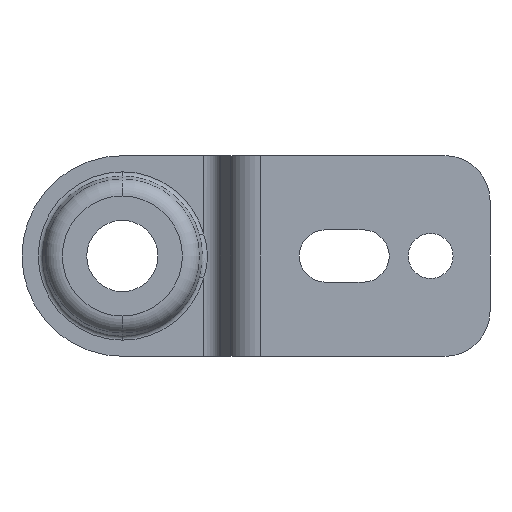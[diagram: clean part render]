
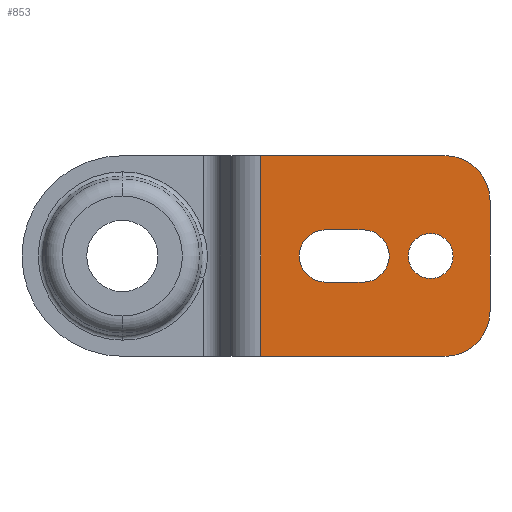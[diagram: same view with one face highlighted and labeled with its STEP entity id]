
A CAD part, front view. The second image highlights one B-rep face of the part: STEP entity #853.
In plain terms, the highlighted planar face has unit normal (0, -1, 0).
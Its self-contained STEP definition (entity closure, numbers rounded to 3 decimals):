
#6 = CARTESIAN_POINT ( 'NONE',  ( 26., -8.3, 11.15 ) ) ;
#17 = DIRECTION ( 'NONE',  ( 0., 1., 0. ) ) ;
#23 = AXIS2_PLACEMENT_3D ( 'NONE', #903, #891, #259 ) ;
#29 = EDGE_CURVE ( 'NONE', #1014, #385, #527, .T. ) ;
#31 = VECTOR ( 'NONE', #1172, 1000. ) ;
#36 = DIRECTION ( 'NONE',  ( 0., 0., -1. ) ) ;
#54 = CARTESIAN_POINT ( 'NONE',  ( 26., -8.3, -6.15 ) ) ;
#75 = DIRECTION ( 'NONE',  ( 0., 0., 1. ) ) ;
#76 = DIRECTION ( 'NONE',  ( 0., 0., 1. ) ) ;
#84 = CARTESIAN_POINT ( 'NONE',  ( 7.7, -8.3, 2.9 ) ) ;
#90 = ORIENTED_EDGE ( 'NONE', *, *, #902, .T. ) ;
#98 = VECTOR ( 'NONE', #506, 1000. ) ;
#99 = ORIENTED_EDGE ( 'NONE', *, *, #918, .T. ) ;
#108 = VECTOR ( 'NONE', #114, 1000. ) ;
#112 = EDGE_CURVE ( 'NONE', #655, #1043, #439, .T. ) ;
#114 = DIRECTION ( 'NONE',  ( 0., 0., -1. ) ) ;
#116 = CARTESIAN_POINT ( 'NONE',  ( 0.5, -8.3, 2.9 ) ) ;
#117 = CARTESIAN_POINT ( 'NONE',  ( 0.5, -8.3, -11.15 ) ) ;
#126 = DIRECTION ( 'NONE',  ( 0., 0., 1. ) ) ;
#134 = FACE_OUTER_BOUND ( 'NONE', #1175, .T. ) ;
#165 = EDGE_LOOP ( 'NONE', ( #621, #545, #1130, #223, #1202 ) ) ;
#176 = EDGE_CURVE ( 'NONE', #1219, #894, #791, .T. ) ;
#182 = VERTEX_POINT ( 'NONE', #54 ) ;
#223 = ORIENTED_EDGE ( 'NONE', *, *, #29, .T. ) ;
#225 = VECTOR ( 'NONE', #332, 1000. ) ;
#226 = FACE_BOUND ( 'NONE', #519, .T. ) ;
#228 = VERTEX_POINT ( 'NONE', #1307 ) ;
#259 = DIRECTION ( 'NONE',  ( 0., 0., 1. ) ) ;
#282 = VECTOR ( 'NONE', #36, 1000. ) ;
#307 = VERTEX_POINT ( 'NONE', #732 ) ;
#332 = DIRECTION ( 'NONE',  ( 1., 0., 0. ) ) ;
#352 = AXIS2_PLACEMENT_3D ( 'NONE', #388, #491, #1101 ) ;
#372 = DIRECTION ( 'NONE',  ( 0., 1., 0. ) ) ;
#385 = VERTEX_POINT ( 'NONE', #724 ) ;
#388 = CARTESIAN_POINT ( 'NONE',  ( 11.9, -8.3, 0. ) ) ;
#393 = EDGE_CURVE ( 'NONE', #670, #182, #1031, .T. ) ;
#411 = DIRECTION ( 'NONE',  ( 0., -1., 0. ) ) ;
#418 = CARTESIAN_POINT ( 'NONE',  ( 21.9, -8.3, 0. ) ) ;
#435 = CARTESIAN_POINT ( 'NONE',  ( 16.9, -8.3, 0. ) ) ;
#439 = LINE ( 'NONE', #960, #31 ) ;
#460 = CIRCLE ( 'NONE', #569, 2.9 ) ;
#491 = DIRECTION ( 'NONE',  ( 0., 1., 0. ) ) ;
#495 = DIRECTION ( 'NONE',  ( 0., 0., 1. ) ) ;
#506 = DIRECTION ( 'NONE',  ( 1., 0., 0. ) ) ;
#519 = EDGE_LOOP ( 'NONE', ( #1280, #859 ) ) ;
#522 = EDGE_CURVE ( 'NONE', #1286, #1245, #965, .T. ) ;
#527 = LINE ( 'NONE', #116, #98 ) ;
#529 = ORIENTED_EDGE ( 'NONE', *, *, #393, .F. ) ;
#538 = AXIS2_PLACEMENT_3D ( 'NONE', #679, #909, #76 ) ;
#545 = ORIENTED_EDGE ( 'NONE', *, *, #992, .T. ) ;
#558 = CARTESIAN_POINT ( 'NONE',  ( 0.5, -8.3, 11.15 ) ) ;
#567 = ORIENTED_EDGE ( 'NONE', *, *, #522, .F. ) ;
#569 = AXIS2_PLACEMENT_3D ( 'NONE', #1298, #372, #1093 ) ;
#580 = CARTESIAN_POINT ( 'NONE',  ( 26., -8.3, 6.15 ) ) ;
#583 = EDGE_CURVE ( 'NONE', #228, #182, #893, .T. ) ;
#608 = CARTESIAN_POINT ( 'NONE',  ( 0.5, -8.3, 11.15 ) ) ;
#621 = ORIENTED_EDGE ( 'NONE', *, *, #112, .T. ) ;
#649 = DIRECTION ( 'NONE',  ( 0., 0., 1. ) ) ;
#655 = VERTEX_POINT ( 'NONE', #787 ) ;
#662 = CARTESIAN_POINT ( 'NONE',  ( 0.5, -8.3, 11.15 ) ) ;
#670 = VERTEX_POINT ( 'NONE', #580 ) ;
#676 = CIRCLE ( 'NONE', #702, 2.5 ) ;
#679 = CARTESIAN_POINT ( 'NONE',  ( 19.4, -8.3, 0. ) ) ;
#693 = ORIENTED_EDGE ( 'NONE', *, *, #825, .T. ) ;
#702 = AXIS2_PLACEMENT_3D ( 'NONE', #1155, #964, #126 ) ;
#724 = CARTESIAN_POINT ( 'NONE',  ( 11.9, -8.3, 2.9 ) ) ;
#732 = CARTESIAN_POINT ( 'NONE',  ( 4.8, -8.3, 0. ) ) ;
#749 = CARTESIAN_POINT ( 'NONE',  ( 0.5, -8.3, 11.15 ) ) ;
#775 = CARTESIAN_POINT ( 'NONE',  ( 7.7, -8.3, -2.9 ) ) ;
#782 = AXIS2_PLACEMENT_3D ( 'NONE', #1329, #411, #495 ) ;
#783 = ORIENTED_EDGE ( 'NONE', *, *, #583, .T. ) ;
#787 = CARTESIAN_POINT ( 'NONE',  ( 11.9, -8.3, -2.9 ) ) ;
#791 = CIRCLE ( 'NONE', #538, 2.5 ) ;
#809 = AXIS2_PLACEMENT_3D ( 'NONE', #1226, #1115, #75 ) ;
#825 = EDGE_CURVE ( 'NONE', #670, #1245, #997, .T. ) ;
#853 = ADVANCED_FACE ( 'NONE', ( #226, #865, #134 ), #953, .F. ) ;
#859 = ORIENTED_EDGE ( 'NONE', *, *, #176, .T. ) ;
#865 = FACE_BOUND ( 'NONE', #165, .T. ) ;
#891 = DIRECTION ( 'NONE',  ( 0., -1., 0. ) ) ;
#893 = CIRCLE ( 'NONE', #23, 5. ) ;
#894 = VERTEX_POINT ( 'NONE', #435 ) ;
#902 = EDGE_CURVE ( 'NONE', #1165, #228, #1268, .T. ) ;
#903 = CARTESIAN_POINT ( 'NONE',  ( 21., -8.3, -6.15 ) ) ;
#909 = DIRECTION ( 'NONE',  ( 0., 1., 0. ) ) ;
#912 = AXIS2_PLACEMENT_3D ( 'NONE', #558, #17, #649 ) ;
#918 = EDGE_CURVE ( 'NONE', #1286, #1165, #1254, .T. ) ;
#929 = EDGE_CURVE ( 'NONE', #894, #1219, #676, .T. ) ;
#953 = PLANE ( 'NONE',  #912 ) ;
#960 = CARTESIAN_POINT ( 'NONE',  ( 0.5, -8.3, -2.9 ) ) ;
#964 = DIRECTION ( 'NONE',  ( 0., 1., 0. ) ) ;
#965 = LINE ( 'NONE', #662, #1332 ) ;
#992 = EDGE_CURVE ( 'NONE', #1043, #307, #460, .T. ) ;
#997 = CIRCLE ( 'NONE', #782, 5. ) ;
#1012 = CARTESIAN_POINT ( 'NONE',  ( 21., -8.3, 11.15 ) ) ;
#1014 = VERTEX_POINT ( 'NONE', #84 ) ;
#1031 = LINE ( 'NONE', #6, #108 ) ;
#1043 = VERTEX_POINT ( 'NONE', #775 ) ;
#1049 = CIRCLE ( 'NONE', #352, 2.9 ) ;
#1059 = CARTESIAN_POINT ( 'NONE',  ( 0.5, -8.3, -11.15 ) ) ;
#1093 = DIRECTION ( 'NONE',  ( 0., 0., 1. ) ) ;
#1101 = DIRECTION ( 'NONE',  ( 0., 0., 1. ) ) ;
#1115 = DIRECTION ( 'NONE',  ( 0., 1., 0. ) ) ;
#1130 = ORIENTED_EDGE ( 'NONE', *, *, #1314, .T. ) ;
#1155 = CARTESIAN_POINT ( 'NONE',  ( 19.4, -8.3, 0. ) ) ;
#1165 = VERTEX_POINT ( 'NONE', #117 ) ;
#1172 = DIRECTION ( 'NONE',  ( -1., 0., 0. ) ) ;
#1175 = EDGE_LOOP ( 'NONE', ( #529, #693, #567, #99, #90, #783 ) ) ;
#1202 = ORIENTED_EDGE ( 'NONE', *, *, #1263, .T. ) ;
#1219 = VERTEX_POINT ( 'NONE', #418 ) ;
#1226 = CARTESIAN_POINT ( 'NONE',  ( 7.7, -8.3, 0. ) ) ;
#1245 = VERTEX_POINT ( 'NONE', #1012 ) ;
#1254 = LINE ( 'NONE', #749, #282 ) ;
#1263 = EDGE_CURVE ( 'NONE', #385, #655, #1049, .T. ) ;
#1268 = LINE ( 'NONE', #1059, #225 ) ;
#1275 = DIRECTION ( 'NONE',  ( 1., 0., 0. ) ) ;
#1279 = CIRCLE ( 'NONE', #809, 2.9 ) ;
#1280 = ORIENTED_EDGE ( 'NONE', *, *, #929, .T. ) ;
#1286 = VERTEX_POINT ( 'NONE', #608 ) ;
#1298 = CARTESIAN_POINT ( 'NONE',  ( 7.7, -8.3, 0. ) ) ;
#1307 = CARTESIAN_POINT ( 'NONE',  ( 21., -8.3, -11.15 ) ) ;
#1314 = EDGE_CURVE ( 'NONE', #307, #1014, #1279, .T. ) ;
#1329 = CARTESIAN_POINT ( 'NONE',  ( 21., -8.3, 6.15 ) ) ;
#1332 = VECTOR ( 'NONE', #1275, 1000. ) ;
